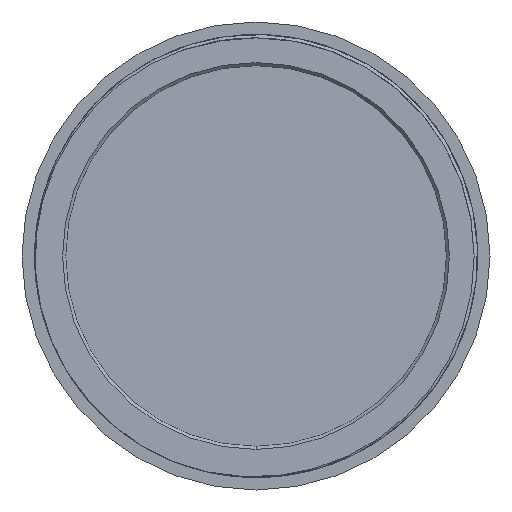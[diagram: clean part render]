
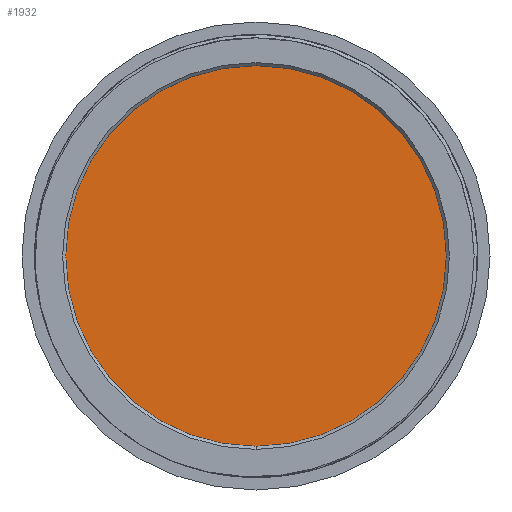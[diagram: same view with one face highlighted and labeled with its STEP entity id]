
A CAD part, front view. The second image highlights one B-rep face of the part: STEP entity #1932.
In plain terms, the highlighted planar face has unit normal (0, -1, 0).
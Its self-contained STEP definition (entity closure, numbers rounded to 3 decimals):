
#26 = CARTESIAN_POINT ( 'NONE',  ( 0., 2.3, -16. ) ) ;
#122 = CARTESIAN_POINT ( 'NONE',  ( 0., 2.3, 16. ) ) ;
#233 = CARTESIAN_POINT ( 'NONE',  ( 0., 2.3, 0. ) ) ;
#414 = VERTEX_POINT ( 'NONE', #26 ) ;
#568 = CIRCLE ( 'NONE', #945, 16. ) ;
#692 = DIRECTION ( 'NONE',  ( 0., 1., 0. ) ) ;
#768 = DIRECTION ( 'NONE',  ( 0., 0., 1. ) ) ;
#945 = AXIS2_PLACEMENT_3D ( 'NONE', #1759, #2170, #2183 ) ;
#1032 = EDGE_CURVE ( 'NONE', #1600, #414, #568, .T. ) ;
#1158 = ORIENTED_EDGE ( 'NONE', *, *, #1366, .F. ) ;
#1309 = ORIENTED_EDGE ( 'NONE', *, *, #1032, .F. ) ;
#1340 = DIRECTION ( 'NONE',  ( 0., 1., 0. ) ) ;
#1366 = EDGE_CURVE ( 'NONE', #414, #1600, #2076, .T. ) ;
#1600 = VERTEX_POINT ( 'NONE', #122 ) ;
#1636 = AXIS2_PLACEMENT_3D ( 'NONE', #233, #1340, #1816 ) ;
#1759 = CARTESIAN_POINT ( 'NONE',  ( 0., 2.3, 0. ) ) ;
#1816 = DIRECTION ( 'NONE',  ( 0., 0., 1. ) ) ;
#1932 = ADVANCED_FACE ( 'NONE', ( #2218 ), #2273, .F. ) ;
#2076 = CIRCLE ( 'NONE', #2457, 16. ) ;
#2170 = DIRECTION ( 'NONE',  ( 0., 1., 0. ) ) ;
#2183 = DIRECTION ( 'NONE',  ( 0., 0., 1. ) ) ;
#2218 = FACE_OUTER_BOUND ( 'NONE', #2258, .T. ) ;
#2258 = EDGE_LOOP ( 'NONE', ( #1158, #1309 ) ) ;
#2273 = PLANE ( 'NONE',  #1636 ) ;
#2457 = AXIS2_PLACEMENT_3D ( 'NONE', #2723, #692, #768 ) ;
#2723 = CARTESIAN_POINT ( 'NONE',  ( 0., 2.3, 0. ) ) ;
